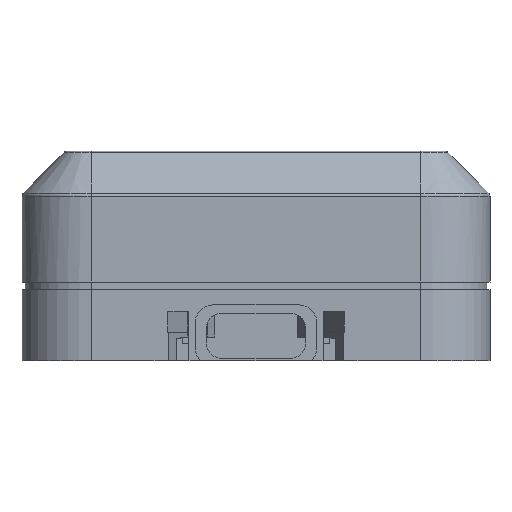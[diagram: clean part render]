
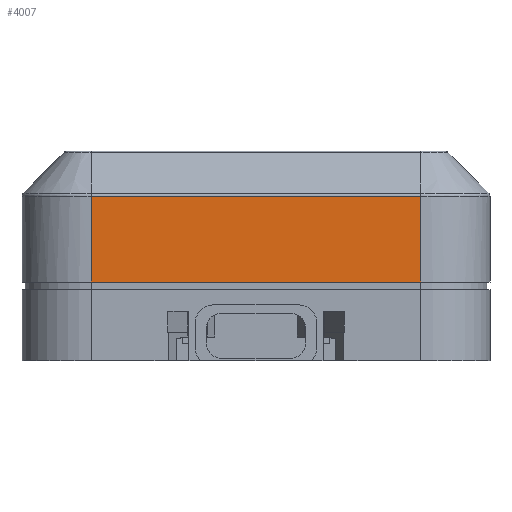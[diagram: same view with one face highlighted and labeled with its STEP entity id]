
A CAD part, front view. The second image highlights one B-rep face of the part: STEP entity #4007.
In plain terms, the highlighted planar face has unit normal (0, -1, 0).
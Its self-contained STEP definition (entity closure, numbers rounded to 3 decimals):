
#2094 = CYLINDRICAL_SURFACE('',#2095,0.5);
#2095 = AXIS2_PLACEMENT_3D('',#2096,#2097,#2098);
#2096 = CARTESIAN_POINT('',(19.,-23.5,21.393));
#2097 = DIRECTION('',(-1.,-0.,-0.));
#2098 = DIRECTION('',(0.,-1.,0.));
#2952 = VERTEX_POINT('',#2953);
#2953 = CARTESIAN_POINT('',(19.,-24.,21.393));
#2994 = CYLINDRICAL_SURFACE('',#2995,8.);
#2995 = AXIS2_PLACEMENT_3D('',#2996,#2997,#2998);
#2996 = CARTESIAN_POINT('',(19.,-16.,2.4));
#2997 = DIRECTION('',(0.,0.,1.));
#2998 = DIRECTION('',(1.,0.,-0.));
#3073 = VERTEX_POINT('',#3074);
#3074 = CARTESIAN_POINT('',(-19.,-24.,21.393));
#3098 = EDGE_CURVE('',#2952,#3073,#3099,.T.);
#3099 = SURFACE_CURVE('',#3100,(#3104,#3111),.PCURVE_S1.);
#3100 = LINE('',#3101,#3102);
#3101 = CARTESIAN_POINT('',(19.,-24.,21.393));
#3102 = VECTOR('',#3103,1.);
#3103 = DIRECTION('',(-1.,-0.,-0.));
#3104 = PCURVE('',#2094,#3105);
#3105 = DEFINITIONAL_REPRESENTATION('',(#3106),#3110);
#3106 = LINE('',#3107,#3108);
#3107 = CARTESIAN_POINT('',(0.,0.));
#3108 = VECTOR('',#3109,1.);
#3109 = DIRECTION('',(0.,1.));
#3110 = ( GEOMETRIC_REPRESENTATION_CONTEXT(2) 
PARAMETRIC_REPRESENTATION_CONTEXT() REPRESENTATION_CONTEXT('2D SPACE',''
  ) );
#3111 = PCURVE('',#3112,#3117);
#3112 = PLANE('',#3113);
#3113 = AXIS2_PLACEMENT_3D('',#3114,#3115,#3116);
#3114 = CARTESIAN_POINT('',(-27.,-24.,2.4));
#3115 = DIRECTION('',(0.,1.,0.));
#3116 = DIRECTION('',(0.,0.,1.));
#3117 = DEFINITIONAL_REPRESENTATION('',(#3118),#3122);
#3118 = LINE('',#3119,#3120);
#3119 = CARTESIAN_POINT('',(18.993,46.));
#3120 = VECTOR('',#3121,1.);
#3121 = DIRECTION('',(0.,-1.));
#3122 = ( GEOMETRIC_REPRESENTATION_CONTEXT(2) 
PARAMETRIC_REPRESENTATION_CONTEXT() REPRESENTATION_CONTEXT('2D SPACE',''
  ) );
#3239 = CYLINDRICAL_SURFACE('',#3240,8.);
#3240 = AXIS2_PLACEMENT_3D('',#3241,#3242,#3243);
#3241 = CARTESIAN_POINT('',(-19.,-16.,2.4));
#3242 = DIRECTION('',(0.,0.,1.));
#3243 = DIRECTION('',(-1.,-0.,0.));
#3911 = VERTEX_POINT('',#3912);
#3912 = CARTESIAN_POINT('',(19.,-24.,11.5));
#3927 = PLANE('',#3928);
#3928 = AXIS2_PLACEMENT_3D('',#3929,#3930,#3931);
#3929 = CARTESIAN_POINT('',(-27.5,-24.5,11.5));
#3930 = DIRECTION('',(0.,0.,1.));
#3931 = DIRECTION('',(1.,0.,0.));
#3939 = EDGE_CURVE('',#3911,#2952,#3940,.T.);
#3940 = SURFACE_CURVE('',#3941,(#3945,#3952),.PCURVE_S1.);
#3941 = LINE('',#3942,#3943);
#3942 = CARTESIAN_POINT('',(19.,-24.,2.4));
#3943 = VECTOR('',#3944,1.);
#3944 = DIRECTION('',(0.,0.,1.));
#3945 = PCURVE('',#2994,#3946);
#3946 = DEFINITIONAL_REPRESENTATION('',(#3947),#3951);
#3947 = LINE('',#3948,#3949);
#3948 = CARTESIAN_POINT('',(-1.571,0.));
#3949 = VECTOR('',#3950,1.);
#3950 = DIRECTION('',(-0.,1.));
#3951 = ( GEOMETRIC_REPRESENTATION_CONTEXT(2) 
PARAMETRIC_REPRESENTATION_CONTEXT() REPRESENTATION_CONTEXT('2D SPACE',''
  ) );
#3952 = PCURVE('',#3112,#3953);
#3953 = DEFINITIONAL_REPRESENTATION('',(#3954),#3958);
#3954 = LINE('',#3955,#3956);
#3955 = CARTESIAN_POINT('',(0.,46.));
#3956 = VECTOR('',#3957,1.);
#3957 = DIRECTION('',(1.,0.));
#3958 = ( GEOMETRIC_REPRESENTATION_CONTEXT(2) 
PARAMETRIC_REPRESENTATION_CONTEXT() REPRESENTATION_CONTEXT('2D SPACE',''
  ) );
#4007 = ADVANCED_FACE('',(#4008),#3112,.F.);
#4008 = FACE_BOUND('',#4009,.F.);
#4009 = EDGE_LOOP('',(#4010,#4031,#4052,#4053));
#4010 = ORIENTED_EDGE('',*,*,#4011,.F.);
#4011 = EDGE_CURVE('',#4012,#3911,#4014,.T.);
#4012 = VERTEX_POINT('',#4013);
#4013 = CARTESIAN_POINT('',(-19.,-24.,11.5));
#4014 = SURFACE_CURVE('',#4015,(#4019,#4025),.PCURVE_S1.);
#4015 = LINE('',#4016,#4017);
#4016 = CARTESIAN_POINT('',(-27.25,-24.,11.5));
#4017 = VECTOR('',#4018,1.);
#4018 = DIRECTION('',(1.,0.,0.));
#4019 = PCURVE('',#3112,#4020);
#4020 = DEFINITIONAL_REPRESENTATION('',(#4021),#4024);
#4021 = B_SPLINE_CURVE_WITH_KNOTS('',1,(#4022,#4023),.UNSPECIFIED.,.F.,
  .F.,(2,2),(8.25,46.25),.PIECEWISE_BEZIER_KNOTS.);
#4022 = CARTESIAN_POINT('',(9.1,8.));
#4023 = CARTESIAN_POINT('',(9.1,46.));
#4024 = ( GEOMETRIC_REPRESENTATION_CONTEXT(2) 
PARAMETRIC_REPRESENTATION_CONTEXT() REPRESENTATION_CONTEXT('2D SPACE',''
  ) );
#4025 = PCURVE('',#3927,#4026);
#4026 = DEFINITIONAL_REPRESENTATION('',(#4027),#4030);
#4027 = B_SPLINE_CURVE_WITH_KNOTS('',1,(#4028,#4029),.UNSPECIFIED.,.F.,
  .F.,(2,2),(8.25,46.25),.PIECEWISE_BEZIER_KNOTS.);
#4028 = CARTESIAN_POINT('',(8.5,0.5));
#4029 = CARTESIAN_POINT('',(46.5,0.5));
#4030 = ( GEOMETRIC_REPRESENTATION_CONTEXT(2) 
PARAMETRIC_REPRESENTATION_CONTEXT() REPRESENTATION_CONTEXT('2D SPACE',''
  ) );
#4031 = ORIENTED_EDGE('',*,*,#4032,.T.);
#4032 = EDGE_CURVE('',#4012,#3073,#4033,.T.);
#4033 = SURFACE_CURVE('',#4034,(#4038,#4045),.PCURVE_S1.);
#4034 = LINE('',#4035,#4036);
#4035 = CARTESIAN_POINT('',(-19.,-24.,2.4));
#4036 = VECTOR('',#4037,1.);
#4037 = DIRECTION('',(0.,0.,1.));
#4038 = PCURVE('',#3112,#4039);
#4039 = DEFINITIONAL_REPRESENTATION('',(#4040),#4044);
#4040 = LINE('',#4041,#4042);
#4041 = CARTESIAN_POINT('',(0.,8.));
#4042 = VECTOR('',#4043,1.);
#4043 = DIRECTION('',(1.,0.));
#4044 = ( GEOMETRIC_REPRESENTATION_CONTEXT(2) 
PARAMETRIC_REPRESENTATION_CONTEXT() REPRESENTATION_CONTEXT('2D SPACE',''
  ) );
#4045 = PCURVE('',#3239,#4046);
#4046 = DEFINITIONAL_REPRESENTATION('',(#4047),#4051);
#4047 = LINE('',#4048,#4049);
#4048 = CARTESIAN_POINT('',(1.571,0.));
#4049 = VECTOR('',#4050,1.);
#4050 = DIRECTION('',(0.,1.));
#4051 = ( GEOMETRIC_REPRESENTATION_CONTEXT(2) 
PARAMETRIC_REPRESENTATION_CONTEXT() REPRESENTATION_CONTEXT('2D SPACE',''
  ) );
#4052 = ORIENTED_EDGE('',*,*,#3098,.F.);
#4053 = ORIENTED_EDGE('',*,*,#3939,.F.);
